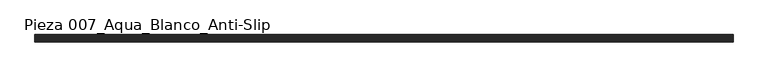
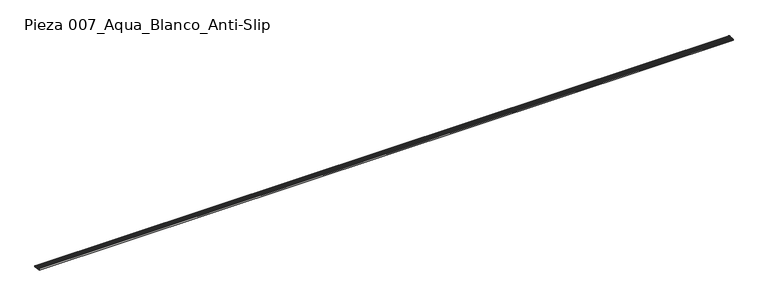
"""IFC4 building model written with IfcOpenShell, lengths in millimetres: slab geometry, ROSA GRES_007 : Pieza 007_Aqua_Blanco_Anti-Slip."""

from ifc_helpers import new_model, si_unit, point, frame, frame_2d, origin, place, context, project, spatial, polyline, circle_curve, trimmed, segment, composite_curve, outline, extrude, source, transform, mapped, element, save


def pieza_007_aqua_blanco_anti_slip_9f0dcfdc(model_context):
    return source(origin(), model_context, "Body", "SweptSolid", [
        extrude(outline(composite_curve([segment(trimmed(circle_curve(frame_2d((-25.9545763, 173.0767428)), 11.6464304), [point((-14.3742659, 174.3159971))], [point((-37.1820416, 176.172444))], True, "CARTESIAN"), True, "CONTINUOUS"), segment(polyline([(-37.1820416, 176.172444), (-33.8762309, 200.4746837), (-29.9345538, 200.1538709)]), True, "CONTINUOUS"), segment(trimmed(circle_curve(frame_2d((-27.3971937, 201.142641)), 2.7232081), [point((-29.9345538, 200.1538709))], [point((-24.7247274, 200.6193952))], True, "CARTESIAN"), True, "CONTINUOUS"), segment(trimmed(circle_curve(frame_2d((-20.3008643, 202.7650351)), 4.9167404), [point((-24.7247274, 200.6193952))], [point((-16.9364731, 199.1796191))], True, "CARTESIAN"), True, "CONTINUOUS"), segment(polyline([(-16.9364731, 199.1796191), (-12.7748841, 198.875801)]), True, "CONTINUOUS"), segment(trimmed(circle_curve(frame_2d((-15.1536138, 183.7870899)), 15.2750633), [point((-12.7748841, 198.875801))], [point((0.0710994, 182.547869))], False, "CARTESIAN"), True, "CONTINUOUS"), segment(polyline([(0.0710994, 182.547869), (-0.6896004, 173.202129), (-14.3742659, 174.3159971)]), True, "CONTINUOUS")], self_intersect=False)), frame((0.0, 0.0, 0.0), z_axis=(1.0, 0.0, 0.0), x_axis=(0.0, 1.0, 0.0)), (0.0, 0.0, 1.0), 11456.9797845),
        extrude(outline(composite_curve([segment(trimmed(circle_curve(frame_2d((-91.1625174, 167.3774726)), 22.5372595), [point((-71.8498608, 178.9942432))], [point((-108.342302, 181.9645582))], True, "CARTESIAN"), True, "CONTINUOUS"), segment(polyline([(-108.342302, 181.9645582), (-119.2900344, 182.8556525), (-117.4809059, 205.0820876), (-115.5338707, 204.9236084), (-115.3491545, 207.1930072), (-113.0660814, 207.0070959)]), True, "CONTINUOUS"), segment(trimmed(circle_curve(frame_2d((-109.1074243, 209.7932705)), 4.8408403), [point((-113.0660814, 207.0070959))], [point((-105.2742048, 206.836894))], True, "CARTESIAN"), True, "CONTINUOUS"), segment(trimmed(circle_curve(frame_2d((-100.9933064, 209.1504161)), 4.8660534), [point((-105.2742048, 206.836894))], [point((-97.1292049, 206.1928503))], True, "CARTESIAN"), True, "CONTINUOUS"), segment(trimmed(circle_curve(frame_2d((-92.9342908, 208.0451437)), 4.5856619), [point((-97.1292049, 206.1928503))], [point((-89.0833894, 205.555394))], True, "CARTESIAN"), True, "CONTINUOUS"), segment(trimmed(circle_curve(frame_2d((-84.8780848, 207.3839748)), 4.5856619), [point((-89.0833894, 205.555394))], [point((-81.0271834, 204.8942251))], True, "CARTESIAN"), True, "CONTINUOUS"), segment(trimmed(circle_curve(frame_2d((-76.8218788, 206.722806)), 4.5856619), [point((-81.0271834, 204.8942251))], [point((-73.3820924, 203.6902881))], True, "CARTESIAN"), True, "CONTINUOUS"), segment(polyline([(-73.3820924, 203.6902881), (-69.6579726, 203.3871621), (-69.3023399, 198.236672)]), True, "CONTINUOUS"), segment(trimmed(circle_curve(frame_2d((-57.0579989, 199.0821231)), 12.2734948), [point((-69.3023399, 198.236672))], [point((-61.867532, 187.7902205))], True, "CARTESIAN"), True, "CONTINUOUS"), segment(polyline([(-61.867532, 187.7902205), (-43.8250834, 186.3216491)]), True, "CONTINUOUS"), segment(trimmed(circle_curve(frame_2d((-43.5817022, 189.3117604)), 3.0), [point((-43.8250834, 186.3216491))], [point((-40.9402045, 187.8896178))], True, "CARTESIAN"), True, "CONTINUOUS"), segment(trimmed(circle_curve(frame_2d((-106.9597263, 233.2212806)), 80.084561), [point((-40.9402045, 187.8896178))], [point((-33.8762309, 200.4746837))], True, "CARTESIAN"), True, "CONTINUOUS"), segment(polyline([(-33.8762309, 200.4746837), (-37.1820416, 176.172444), (-71.8498608, 178.9942432)]), True, "CONTINUOUS")], self_intersect=False)), frame((0.0, 0.0, 0.0), z_axis=(1.0, 0.0, 0.0), x_axis=(0.0, 1.0, 0.0)), (0.0, 0.0, 1.0), 11456.9797845),
    ])


if __name__ == "__main__":
    model = new_model("IFC4")
    model_context = context("Model", 3, world=origin())
    ifc_project = project(units=[si_unit("LENGTHUNIT", "METRE", prefix="MILLI")], contexts=[model_context])
    site = spatial("IfcSite", under=ifc_project)
    building = spatial("IfcBuilding", under=site)
    placement = place(None, origin())
    pieza_007_aqua_blanco_anti_slip_shape = pieza_007_aqua_blanco_anti_slip_9f0dcfdc(model_context)
    element("IfcSlab", 1, ObjectType="ROSA GRES_007 : Pieza 007_Aqua_Blanco_Anti-Slip", at=placement, inside=building, context=model_context, shape_type="MappedRepresentation", body=[
        mapped(pieza_007_aqua_blanco_anti_slip_shape, transform((0.0, 0.0, 0.0), x_axis=(1.0, 0.0, 0.0), y_axis=(0.0, 1.0, 0.0), z_axis=(0.0, 0.0, 1.0))),
    ])
    save(model, "model.ifc")
